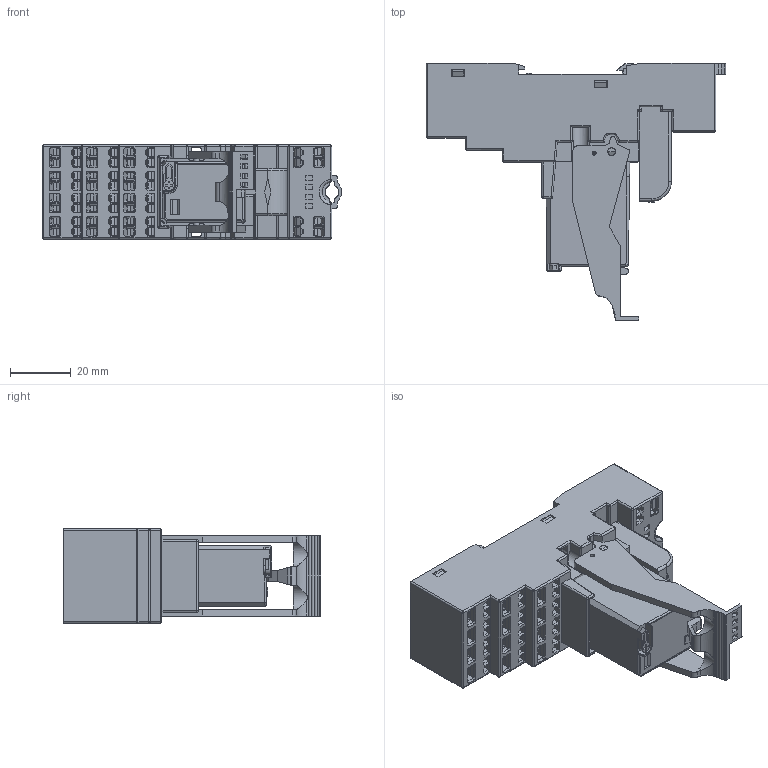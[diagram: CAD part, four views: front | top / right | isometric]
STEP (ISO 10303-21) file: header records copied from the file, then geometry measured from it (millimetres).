
FILE_DESCRIPTION(('STEP AP214'),'2;1');
FILE_NAME('5854.stp','2012-06-21T15:10:54',(''),(''),'2007.1.106','THINKDESIGN','');
FILE_SCHEMA(('AUTOMOTIVE_DESIGN'));
Length unit declared in the file: millimetre
Products named in the file (1): top
Bounding box: 98.65 x 84.76 x 31 mm (x, y, z)
Surface area: 38516.7 mm2 (no closed solid volume)
Topology: 0 solids, 0 shells, 2544 faces, 14999 edges, 14951 vertices
Faces by surface type: plane 1486, cylinder 812, bspline 246
Full cylindrical faces by diameter (mm): 1 x14, 1.3 x2, 2.5 x3, 2.6 x2, 5 x1
Entity records: 130059 total; most frequent: CARTESIAN_POINT 48532, DIRECTION 17488, COMPOSITE_CURVE_SEGMENT 14967, TRIMMED_CURVE 11610, VECTOR 10392, LINE 10392, AXIS2_PLACEMENT_3D 3548, OUTER_BOUNDARY_CURVE 2544
